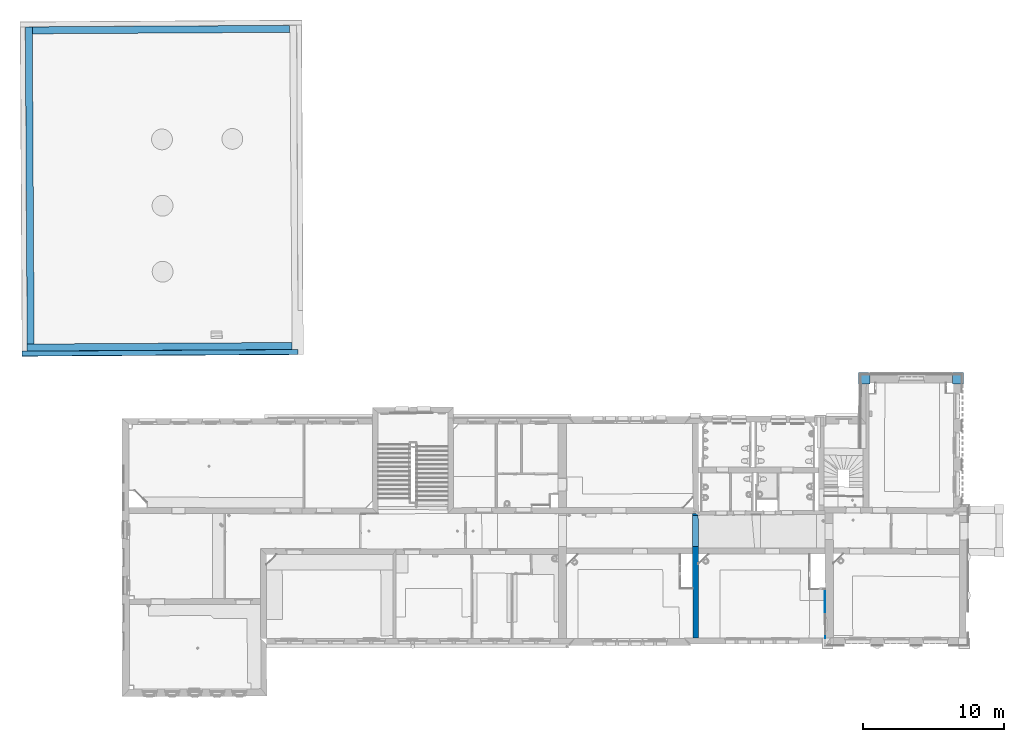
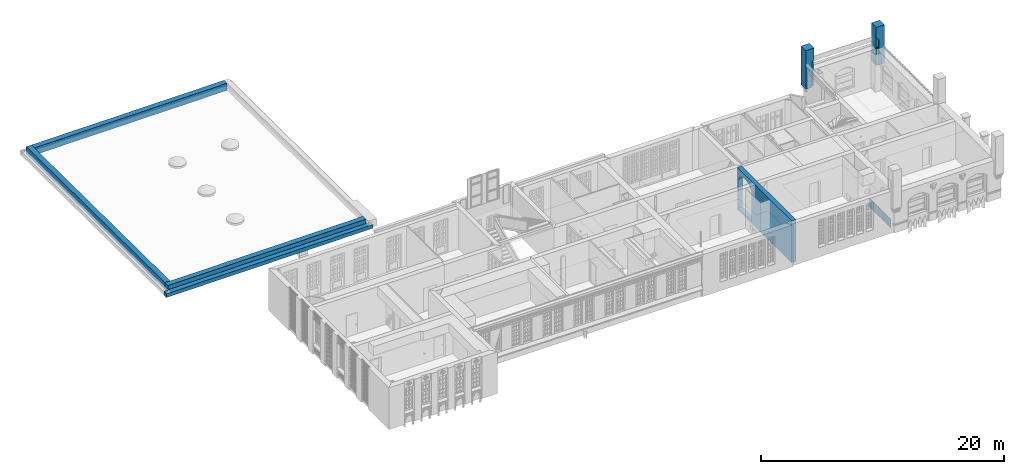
# One storey, part 40 of 90: 7 walls, 2 building element parts, 1 opening, 1 element without a shape of its own.
"""IFC2X3 building model written with IfcOpenShell, lengths in metres."""

from ifc_helpers import new_model, entity, si_unit, converted_unit, derived_unit, money_unit, direction, frame, origin_with_axes, place, context, subcontext, project, spatial, polyline, outline, extrude, boolean, faceted_brep, material, type_object, element, aggregate, save


model = new_model("IFC2X3")

# Units and contexts
model_context = context("Model", 3, precision=1e-05, world=origin_with_axes(), true_north=direction((0.0, 1.0)))
body_context = subcontext(model_context, "Body", "Model", "MODEL_VIEW")
ifc_project = project(units=[si_unit("LENGTHUNIT", "METRE"), si_unit("AREAUNIT", "SQUARE_METRE"), si_unit("VOLUMEUNIT", "CUBIC_METRE"), converted_unit("PLANEANGLEUNIT", "DEGREE", entity("IfcPlaneAngleMeasure", 0.0174532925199), si_unit("PLANEANGLEUNIT", "RADIAN"), dimensions=[0, 0, 0, 0, 0, 0, 0]), money_unit("EUR"), converted_unit("TIMEUNIT", "Year", entity("IfcTimeMeasure", 31556926.0), si_unit("TIMEUNIT", "SECOND"), dimensions=[0, 0, 1, 0, 0, 0, 0]), si_unit("MASSUNIT", "GRAM", prefix="KILO"), si_unit("THERMODYNAMICTEMPERATUREUNIT", "DEGREE_CELSIUS"), si_unit("LUMINOUSINTENSITYUNIT", "LUMEN"), si_unit("ENERGYUNIT", "JOULE", prefix="MEGA"), derived_unit("THERMALCONDUCTANCEUNIT", [(si_unit("POWERUNIT", "WATT"), 1), (si_unit("LENGTHUNIT", "METRE"), -1), (si_unit("THERMODYNAMICTEMPERATUREUNIT", "KELVIN"), -1)]), derived_unit("SPECIFICHEATCAPACITYUNIT", [(si_unit("ENERGYUNIT", "JOULE"), 1), (si_unit("MASSUNIT", "GRAM", prefix="KILO"), -1), (si_unit("THERMODYNAMICTEMPERATUREUNIT", "KELVIN"), -1)]), derived_unit("MASSDENSITYUNIT", [(si_unit("MASSUNIT", "GRAM", prefix="KILO"), 1), (si_unit("VOLUMEUNIT", "CUBIC_METRE"), -1)])], contexts=[model_context])

# Site, building, storey
site_placement = place(None, origin_with_axes())
site = spatial("IfcSite", under=ifc_project, at=site_placement, Name="Gelände", CompositionType="ELEMENT")
building_placement = place(site_placement, origin_with_axes())
building = spatial("IfcBuilding", under=site, at=building_placement, Name="Gebäude", CompositionType="ELEMENT")
storey_placement = place(building_placement, frame((0.0, 0.0, 3.7), z_axis=(0.0, 0.0, 1.0), x_axis=(1.0, 0.0, 0.0)))
storey = spatial("IfcBuildingStorey", under=building, at=storey_placement, Name="1.OBERGESCHOSS", CompositionType="ELEMENT", Elevation=3.7)

# Wall, opening
ifc_material_1 = material(Name="05_ALLGEMEIN - TRAGENDE BAUTEILE")
wall_type_1 = type_object("IfcWallType", Name="05_ALLGEMEIN - TRAGENDE BAUTEILE 410", PredefinedType="ELEMENTEDWALL")
wall_1_placement = place(storey_placement, frame((12.5279882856, 19.1535270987, -0.1), z_axis=(0.0, 0.0, 1.0), x_axis=(0.00380322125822, -0.999992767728, 0.0)))
wall_1 = element("IfcWall", 1, at=wall_1_placement, inside=storey, type_object=wall_type_1, material=ifc_material_1, Name="Wand-040", ObjectType="ELEMENTEDWALL", context=body_context, shape_type="CSG", body=[
    boolean("DIFFERENCE", boolean("DIFFERENCE", extrude(outline(polyline([(-0.281267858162, 0.0), (9.14652426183, 0.0), (9.14652426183, 0.41), (-0.281267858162, 0.41), (-0.281267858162, 0.0)])), origin_with_axes(), (0.0, 0.0, 1.0), 4.2), faceted_brep([(-0.12767025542, 0.0, 4.2), (-0.126230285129, 0.41, 4.2), (-0.281267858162, 0.41, 4.2), (-0.281267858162, 0.0, 4.2), (-0.126230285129, 0.41, 0.0), (-0.12767025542, 0.0, 0.0), (-0.281267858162, 0.41, 0.0), (-0.281267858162, 0.0, 0.0)], [[[0, 1, 2, 3]], [[4, 1, 0, 5]], [[1, 4, 6, 2]], [[2, 6, 7, 3]], [[5, 0, 3, 7]], [[4, 5, 7, 6]]])), faceted_brep([(8.74652226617, 0.41, 0.0), (8.74652226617, 0.41, 4.2), (9.14652426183, 0.41, 4.2), (9.14652426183, 0.41, 0.0), (8.74522713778, 0.0, 4.2), (8.74522713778, 0.0, 0.0), (9.14652426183, 0.0, 4.2), (9.14652426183, 0.0, 0.0)], [[[0, 1, 2, 3]], [[4, 1, 0, 5]], [[1, 4, 6, 2]], [[6, 7, 3, 2]], [[5, 0, 3, 7]], [[4, 5, 7, 6]]])),
])
opening_placement = place(wall_1_placement, frame((1.10227197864, 0.0, 0.201271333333), z_axis=(0.0, 0.0, 1.0), x_axis=(1.0, 0.0, 0.0)))
element("IfcOpeningElement", 2, at=opening_placement, cuts=wall_1, Name="Tür-023", context=body_context, shape_type="Brep", body=[
    faceted_brep([(1.10288979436, 0.41, 0.0), (1.10288979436, 0.41, 2.87), (1.10288979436, -0.82, 2.87), (1.10288979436, -0.82, 0.0), (-1.10288979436, 0.41, 0.0), (-1.10288979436, 0.41, 2.87), (-0.965924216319, 0.41, 3.11505867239), (-0.775496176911, 0.41, 3.32133635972), (-0.54214558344, 0.41, 3.47741590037), (-0.278788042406, 0.41, 3.5746585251), (0.0, 0.41, 3.607682), (0.278788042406, 0.41, 3.5746585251), (0.54214558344, 0.41, 3.47741590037), (0.775496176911, 0.41, 3.32133635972), (0.965924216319, 0.41, 3.11505867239), (0.965924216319, -0.82, 3.11505867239), (0.775496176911, -0.82, 3.32133635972), (0.54214558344, -0.82, 3.47741590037), (0.278788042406, -0.82, 3.5746585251), (0.0, -0.82, 3.607682), (-0.278788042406, -0.82, 3.5746585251), (-0.54214558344, -0.82, 3.47741590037), (-0.775496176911, -0.82, 3.32133635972), (-0.965924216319, -0.82, 3.11505867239), (-1.10288979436, -0.82, 2.87), (-1.10288979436, -0.82, 0.0)], [[[0, 1, 2, 3]], [[0, 4, 5, 6, 7, 8, 9, 10, 11, 12, 13, 14, 1]], [[1, 14, 15, 2]], [[3, 2, 15, 16, 17, 18, 19, 20, 21, 22, 23, 24, 25]], [[4, 0, 3, 25]], [[5, 4, 25, 24]], [[6, 5, 24, 23]], [[7, 6, 23, 22]], [[8, 7, 22, 21]], [[9, 8, 21, 20]], [[10, 9, 20, 19]], [[11, 10, 19, 18]], [[12, 11, 18, 17]], [[13, 12, 17, 16]], [[14, 13, 16, 15]]]),
])

# Walls
wall_type_2 = type_object("IfcWallType", Name="05_ALLGEMEIN - TRAGENDE BAUTEILE 790", PredefinedType="ELEMENTEDWALL")
wall_2_placement = place(storey_placement, frame((24.3529205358, 29.3008883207, 2.20763403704), z_axis=(0.0, 0.0, 1.0), x_axis=(0.0, -1.0, 0.0)))
element("IfcWall", 3, at=wall_2_placement, inside=storey, type_object=wall_type_2, material=ifc_material_1, Name="Wand-029", ObjectType="ELEMENTEDWALL", context=body_context, shape_type="CSG", body=[
    boolean("DIFFERENCE", extrude(outline(polyline([(0.0, 0.0), (0.79, 0.0), (0.79, 0.79), (0.0, 0.79), (0.0, 0.0)])), origin_with_axes(), (0.0, 0.0, 1.0), 3.85942458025), faceted_brep([(0.647332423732, 0.79, 2.7625287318), (0.79, 0.79, 2.76201428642), (0.79, 0.79, 0.0), (0.647274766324, 0.79, 0.0), (0.647274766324, 0.79, 2.70029997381), (0.647577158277, 0.576070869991, 2.50757768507), (0.79, 0.574917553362, 2.50568966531), (0.790000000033, 0.574917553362, 1.66236596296), (0.79, 0.574917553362, 0.0), (0.790000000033, 0.574917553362, 1.81236596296), (0.647519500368, 0.576071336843, 0.0), (0.647577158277, 0.576070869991, 0.0), (0.647519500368, 0.576071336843, 2.44534950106), (0.647577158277, 0.576070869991, 1.81236596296), (0.647577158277, 0.576070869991, 1.66236596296)], [[[0, 1, 2, 3, 4]], [[1, 0, 5, 6]], [[7, 8, 2, 1, 6, 9]], [[10, 3, 2, 8, 11]], [[4, 3, 10, 12]], [[0, 4, 12, 5]], [[9, 6, 5, 13]], [[11, 8, 7, 14]], [[7, 9, 13, 14]], [[10, 11, 14, 13, 5, 12]]])),
])
wall_3_placement = place(storey_placement, frame((31.8199610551, 29.3009472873, 2.20763403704), z_axis=(0.0, 0.0, 1.0), x_axis=(0.0, -1.0, 0.0)))
element("IfcWall", 4, at=wall_3_placement, inside=storey, type_object=wall_type_2, material=ifc_material_1, Name="Wand-029", ObjectType="ELEMENTEDWALL", context=body_context, shape_type="CSG", body=[
    boolean("DIFFERENCE", extrude(outline(polyline([(0.0, -0.79), (0.79, -0.79), (0.79, 0.0), (0.0, 0.0), (0.0, -0.79)])), origin_with_axes(), (0.0, 0.0, 1.0), 3.85942458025), faceted_brep([(0.79, -0.545796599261, 2.56413525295), (0.79, -0.79, 2.84370165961), (0.79, -0.79, 0.0), (0.79, -0.545796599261, 0.0), (0.748261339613, -0.545810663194, 2.56438006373), (0.749933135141, -0.79, 2.84392120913), (0.749933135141, -0.79, 1.66236596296), (0.749933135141, -0.79, 0.0), (0.749933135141, -0.79, 1.81236596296), (0.643124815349, -0.79, 1.81236596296), (0.643124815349, -0.79, 1.66236596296), (0.748261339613, -0.545810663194, 0.0), (0.748261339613, -0.545810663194, 1.66236596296), (0.642944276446, -0.545846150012, 1.66236596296), (0.642944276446, -0.545846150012, 1.81236596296), (0.748261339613, -0.545810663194, 1.81236596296)], [[[0, 1, 2, 3]], [[1, 0, 4, 5]], [[6, 7, 2, 1, 5, 8, 9, 10]], [[11, 3, 2, 7]], [[0, 3, 11, 12, 13, 14, 15, 4]], [[8, 5, 4, 15]], [[11, 7, 6, 12]], [[9, 8, 15, 14]], [[10, 9, 14, 13]], [[6, 10, 13, 12]]])),
])
wall_type_3 = type_object("IfcWallType", Name="05_ALLGEMEIN - TRAGENDE BAUTEILE 500", PredefinedType="ELEMENTEDWALL")
wall_4_placement = place(storey_placement, frame((-34.8146302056, 30.8412474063, 1.1), z_axis=(0.0, 0.0, 1.0), x_axis=(0.99998208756, 0.00598536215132, 0.0)))
element("IfcWall", 5, at=wall_4_placement, inside=storey, type_object=wall_type_3, material=ifc_material_1, Name="Wand-030", ObjectType="ELEMENTEDWALL", context=body_context, shape_type="CSG", body=[
    boolean("DIFFERENCE", boolean("DIFFERENCE", extrude(outline(polyline([(0.0, 0.0), (19.658843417, 0.0), (19.658843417, 0.5), (0.0, 0.5), (0.0, 0.0)])), origin_with_axes(), (0.0, 0.0, 1.0), 0.715335), faceted_brep([(0.0, 0.0, 0.0), (0.0, 0.0, 0.715335), (0.0, 0.5, 0.715335), (0.0, 0.5, 0.0), (6.03224674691e-05, 0.5, 0.715335), (6.03224674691e-05, 0.5, 0.0)], [[[0, 1, 2, 3]], [[4, 1, 0, 5]], [[1, 4, 2]], [[4, 5, 3, 2]], [[5, 0, 3]]])), faceted_brep([(18.8579763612, 0.5, 0.715335), (18.8588422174, 0.0, 0.715335), (19.658843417, 0.0, 0.715335), (19.658843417, 0.5, 0.715335), (18.8588422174, 0.0, 0.0), (18.8579763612, 0.5, 0.0), (19.658843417, 0.0, 0.0), (19.658843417, 0.5, 0.0)], [[[0, 1, 2, 3]], [[4, 1, 0, 5]], [[1, 4, 6, 2]], [[2, 6, 7, 3]], [[5, 0, 3, 7]], [[4, 5, 7, 6]]])),
])
wall_5_placement = place(storey_placement, frame((-15.3341491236, 54.0254099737, 1.1), z_axis=(0.0, 0.0, 1.0), x_axis=(-0.99998255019, -0.00590756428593, 0.0)))
element("IfcWall", 6, at=wall_5_placement, inside=storey, type_object=wall_type_3, material=ifc_material_1, Name="Wand-030", ObjectType="ELEMENTEDWALL", context=body_context, shape_type="CSG", body=[
    boolean("DIFFERENCE", boolean("DIFFERENCE", extrude(outline(polyline([(-0.000904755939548, 0.0), (19.6161361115, 0.0), (19.6161361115, 0.5), (-0.000904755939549, 0.5), (-0.000904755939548, 0.0)])), origin_with_axes(), (0.0, 0.0, 1.0), 0.715335), faceted_brep([(19.1161361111, 0.5, 0.0), (19.1161361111, 0.5, 0.715335), (19.6161361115, 0.5, 0.715335), (19.6161361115, 0.5, 0.0), (19.1161146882, 0.0, 0.715335), (19.1161146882, 0.0, 0.0), (19.6161361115, 0.0, 0.715335), (19.6161361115, 0.0, 0.0)], [[[0, 1, 2, 3]], [[4, 1, 0, 5]], [[1, 4, 6, 2]], [[6, 7, 3, 2]], [[5, 0, 3, 7]], [[4, 5, 7, 6]]])), faceted_brep([(0.800001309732, 0.0, 0.715335), (0.799096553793, 0.5, 0.715335), (-0.000904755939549, 0.5, 0.715335), (-0.000904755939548, 0.0, 0.715335), (0.799096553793, 0.5, 0.0), (0.800001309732, 0.0, 0.0), (-0.000904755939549, 0.5, 0.0), (-0.000904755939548, 0.0, 0.0)], [[[0, 1, 2, 3]], [[4, 1, 0, 5]], [[1, 4, 6, 2]], [[2, 6, 7, 3]], [[5, 0, 3, 7]], [[4, 5, 7, 6]]])),
])
wall_6_placement = place(storey_placement, frame((-34.9499215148, 53.9095265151, 1.1), z_axis=(0.0, 0.0, 1.0), x_axis=(0.00586471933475, -0.999982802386, 0.0)))
element("IfcWall", 7, at=wall_6_placement, inside=storey, type_object=wall_type_3, material=ifc_material_1, Name="Wand-030", ObjectType="ELEMENTEDWALL", context=body_context, shape_type="CSG", body=[
    boolean("DIFFERENCE", boolean("DIFFERENCE", extrude(outline(polyline([(-2.14228467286e-05, 0.0), (23.068675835, 0.0), (23.068675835, 0.5), (-2.14228467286e-05, 0.5), (-2.14228467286e-05, 0.0)])), origin_with_axes(), (0.0, 0.0, 1.0), 0.715335), faceted_brep([(0.0, 0.0, 0.715335), (-2.14228467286e-05, 0.5, 0.715335), (-2.14228467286e-05, 0.0, 0.715335), (-2.14228467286e-05, 0.5, 0.0), (0.0, 0.0, 0.0), (-2.14228467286e-05, 0.0, 0.0)], [[[0, 1, 2]], [[3, 1, 0, 4]], [[1, 3, 5, 2]], [[4, 0, 2, 5]], [[3, 4, 5]]])), faceted_brep([(22.5686155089, 0.5, 0.0), (22.5686155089, 0.5, 0.715335), (23.068675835, 0.5, 0.715335), (23.068675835, 0.5, 0.0), (22.5686758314, 0.0, 0.715335), (22.5686758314, 0.0, 0.0), (23.068675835, 0.0, 0.715335), (23.068675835, 0.0, 0.0)], [[[0, 1, 2, 3]], [[4, 1, 0, 5]], [[1, 4, 6, 2]], [[6, 7, 3, 2]], [[5, 0, 3, 7]], [[4, 5, 7, 6]]])),
])
wall_type_4 = type_object("IfcWallType", Name="05_ALLGEMEIN - TRAGENDE BAUTEILE 30", PredefinedType="ELEMENTEDWALL")
wall_7_placement = place(storey_placement, frame((21.9532492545, 13.8809760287, 0.1), z_axis=(0.0, 0.0, 1.0), x_axis=(0.00205004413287, -0.999997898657, 0.0)))
element("IfcWall", 8, at=wall_7_placement, inside=storey, type_object=wall_type_4, material=ifc_material_1, Name="Wand-042", ObjectType="ELEMENTEDWALL", context=body_context, shape_type="CSG", body=[
    boolean("DIFFERENCE", extrude(outline(polyline([(-0.0300841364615, 0.0), (3.46656340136, 0.0), (3.46656340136, 0.03), (-0.0300841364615, 0.03), (-0.0300841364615, 0.0)])), origin_with_axes(), (0.0, 0.0, 1.0), 0.8841375), faceted_brep([(-0.0300001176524, 0.0, 0.8841375), (-0.030068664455, 0.0244755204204, 0.8841375), (3.46656340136, 0.0294383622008, 0.8841375), (3.46656340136, 0.03, 0.8841375), (-0.0300841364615, 0.03, 0.8841375), (-0.0300841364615, 0.0, 0.8841375), (-0.0300001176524, 0.0, 0.0), (-0.030068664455, 0.0244755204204, 0.0), (3.46656340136, 0.0294383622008, 0.0), (3.46656340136, 0.03, 0.0), (-0.0300841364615, 0.03, 0.0), (-0.0300841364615, 0.0, 0.0)], [[[0, 1, 2, 3, 4, 5]], [[1, 0, 6, 7]], [[8, 2, 1, 7]], [[2, 8, 9, 3]], [[3, 9, 10, 4]], [[4, 10, 11, 5]], [[6, 0, 5, 11]], [[7, 6, 11, 10, 9, 8]]])),
])

# Beam, building element parts
beam_type = type_object("IfcBeamType", Name="sims 374 x 425", PredefinedType="LINTEL")
beam_placement = place(storey_placement, frame((-35.1865012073, 30.4649902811, 1.34309458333), z_axis=(0.0, 0.0, 1.0), x_axis=(0.00598536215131, -0.99998208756, 0.0)))
beam = element("IfcBeam", 9, at=beam_placement, inside=storey, type_object=beam_type, Name="Unterzug-083", ObjectType="LINTEL")
ifc_material_2 = material(Name="33_Dach, Stehfalz")
building_element_part_1_placement = place(beam_placement, origin_with_axes())
building_element_part_1 = element("IfcBuildingElementPart", 10, at=building_element_part_1_placement, material=ifc_material_2, Name="33_Dach, Stehfalz", context=body_context, shape_type="SweptSolid", body=[
    extrude(outline(polyline([(-0.365694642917, 0.0339233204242), (-0.0211704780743, -0.0168783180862), (-0.0221454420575, -0.363606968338), (0.0, -0.369517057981), (0.0, 0.0), (-0.374024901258, 0.0551516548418), (-0.365694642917, 0.0339233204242)])), frame((0.0, 19.6535475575, 0.0), z_axis=(0.0, -1.0, 0.0), x_axis=(1.0, 0.0, 0.0)), (0.0, 0.0, 1.0), 19.6535475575),
])
building_element_part_2_placement = place(beam_placement, origin_with_axes())
building_element_part_2 = element("IfcBuildingElementPart", 11, at=building_element_part_2_placement, material=ifc_material_1, Name="05_ALLGEMEIN - TRAGENDE BAUTEILE", context=body_context, shape_type="SweptSolid", body=[
    extrude(outline(polyline([(-0.0211704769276, -0.0168783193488), (-0.365694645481, 0.0339233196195), (-0.365694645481, -0.363544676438), (-0.0221454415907, -0.36360696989), (-0.0211704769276, -0.0168783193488)])), frame((0.0, 19.6535475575, 0.0), z_axis=(0.0, -1.0, 0.0), x_axis=(1.0, 0.0, 0.0)), (0.0, 0.0, 1.0), 19.6535475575),
])
aggregate(beam, [building_element_part_1, building_element_part_2])

save(model, "model.ifc")
